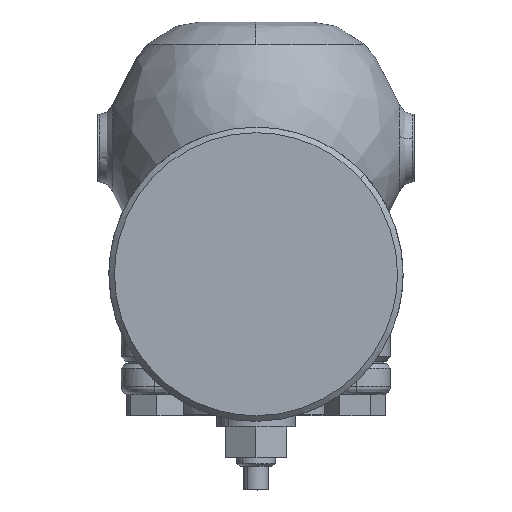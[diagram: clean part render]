
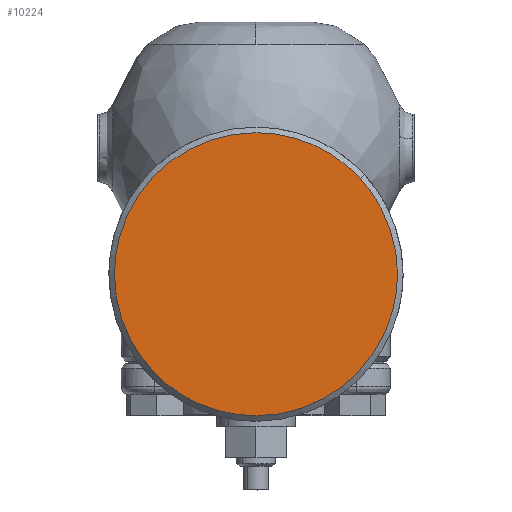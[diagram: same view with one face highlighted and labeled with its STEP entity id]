
A CAD part, left-side view. The second image highlights one B-rep face of the part: STEP entity #10224.
In plain terms, the highlighted free-form (B-spline) face has degree [1, 1] with [2, 2] control points.
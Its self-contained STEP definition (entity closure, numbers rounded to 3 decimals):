
#1703=CARTESIAN_POINT('',(472.5,-50.5,-365.29));
#1704=VERTEX_POINT('',#1703);
#1705=CARTESIAN_POINT('',(472.5,-37.233,-331.172));
#1706=VERTEX_POINT('',#1705);
#1707=CARTESIAN_POINT('',(472.5,-50.5,-365.29));
#1708=CARTESIAN_POINT('',(472.5,-50.5,-362.071));
#1709=CARTESIAN_POINT('',(472.5,-50.069,-357.583));
#1710=CARTESIAN_POINT('',(472.5,-48.585,-351.214));
#1711=CARTESIAN_POINT('',(472.5,-46.574,-345.291));
#1712=CARTESIAN_POINT('',(472.5,-42.9,-338.151));
#1713=CARTESIAN_POINT('',(472.5,-39.276,-333.402));
#1714=CARTESIAN_POINT('',(472.5,-37.233,-331.172));
#1715=B_SPLINE_CURVE_WITH_KNOTS('',3,(#1707,#1708,#1709,#1710,#1711,#1712,#1713,#1714),.UNSPECIFIED.,.F.,.U.,(4,1,1,1,1,4),(0.,9.657,13.462,19.608,28.387,37.459),.UNSPECIFIED.);
#1716=EDGE_CURVE('',#1704,#1706,#1715,.T.);
#1718=CARTESIAN_POINT('',(472.5,0.,-415.79));
#1719=VERTEX_POINT('',#1718);
#1720=CARTESIAN_POINT('',(472.5,0.,-415.79));
#1721=CARTESIAN_POINT('',(472.5,-3.615,-415.79));
#1722=CARTESIAN_POINT('',(472.5,-9.915,-415.11));
#1723=CARTESIAN_POINT('',(472.5,-18.939,-412.373));
#1724=CARTESIAN_POINT('',(472.5,-26.629,-408.502));
#1725=CARTESIAN_POINT('',(472.5,-33.024,-403.728));
#1726=CARTESIAN_POINT('',(472.5,-38.439,-398.314));
#1727=CARTESIAN_POINT('',(472.5,-42.344,-393.081));
#1728=CARTESIAN_POINT('',(472.5,-45.722,-387.032));
#1729=CARTESIAN_POINT('',(472.5,-48.143,-381.084));
#1730=CARTESIAN_POINT('',(472.5,-50.03,-373.553));
#1731=CARTESIAN_POINT('',(472.5,-50.5,-368.285));
#1732=CARTESIAN_POINT('',(472.5,-50.5,-365.29));
#1733=B_SPLINE_CURVE_WITH_KNOTS('',3,(#1720,#1721,#1722,#1723,#1724,#1725,#1726,#1727,#1728,#1729,#1730,#1731,#1732),.UNSPECIFIED.,.F.,.U.,(4,1,1,1,1,1,1,1,1,1,4),(0.,10.845,18.902,28.198,36.564,42.761,51.128,56.085,63.522,70.339,79.325),.UNSPECIFIED.);
#1734=EDGE_CURVE('',#1719,#1704,#1733,.T.);
#1736=CARTESIAN_POINT('',(472.5,37.233,-399.407));
#1737=VERTEX_POINT('',#1736);
#1738=CARTESIAN_POINT('',(472.5,37.233,-399.407));
#1739=CARTESIAN_POINT('',(472.5,35.391,-401.417));
#1740=CARTESIAN_POINT('',(472.5,31.943,-404.616));
#1741=CARTESIAN_POINT('',(472.5,25.851,-408.863));
#1742=CARTESIAN_POINT('',(472.5,19.608,-412.031));
#1743=CARTESIAN_POINT('',(472.5,13.49,-414.063));
#1744=CARTESIAN_POINT('',(472.5,7.087,-415.431));
#1745=CARTESIAN_POINT('',(472.5,2.835,-415.79));
#1746=CARTESIAN_POINT('',(472.5,0.,-415.79));
#1747=B_SPLINE_CURVE_WITH_KNOTS('',3,(#1738,#1739,#1740,#1741,#1742,#1743,#1744,#1745,#1746),.UNSPECIFIED.,.F.,.U.,(4,1,1,1,1,1,4),(0.,8.177,14.064,22.241,29.11,33.362,41.866),.UNSPECIFIED.);
#1748=EDGE_CURVE('',#1737,#1719,#1747,.T.);
#1842=CARTESIAN_POINT('',(472.5,0.,-314.79));
#1843=VERTEX_POINT('',#1842);
#1844=CARTESIAN_POINT('',(472.5,-37.233,-331.172));
#1845=CARTESIAN_POINT('',(472.5,-35.391,-329.163));
#1846=CARTESIAN_POINT('',(472.5,-31.462,-325.517));
#1847=CARTESIAN_POINT('',(472.5,-25.372,-321.444));
#1848=CARTESIAN_POINT('',(472.5,-19.874,-318.766));
#1849=CARTESIAN_POINT('',(472.5,-13.927,-316.596));
#1850=CARTESIAN_POINT('',(472.5,-7.414,-315.139));
#1851=CARTESIAN_POINT('',(472.5,-2.29,-314.79));
#1852=CARTESIAN_POINT('',(472.5,0.,-314.79));
#1853=B_SPLINE_CURVE_WITH_KNOTS('',3,(#1844,#1845,#1846,#1847,#1848,#1849,#1850,#1851,#1852),.UNSPECIFIED.,.F.,.U.,(4,1,1,1,1,1,4),(0.,8.177,16.027,21.914,26.493,34.997,41.866),.UNSPECIFIED.);
#1854=EDGE_CURVE('',#1706,#1843,#1853,.T.);
#1909=CARTESIAN_POINT('',(472.5,50.5,-365.29));
#1910=VERTEX_POINT('',#1909);
#1911=CARTESIAN_POINT('',(472.5,50.5,-365.29));
#1912=CARTESIAN_POINT('',(472.5,50.5,-368.314));
#1913=CARTESIAN_POINT('',(472.5,50.052,-373.289));
#1914=CARTESIAN_POINT('',(472.5,48.304,-380.506));
#1915=CARTESIAN_POINT('',(472.5,46.052,-386.347));
#1916=CARTESIAN_POINT('',(472.5,42.475,-392.965));
#1917=CARTESIAN_POINT('',(472.5,39.408,-397.034));
#1918=CARTESIAN_POINT('',(472.5,37.233,-399.407));
#1919=B_SPLINE_CURVE_WITH_KNOTS('',3,(#1911,#1912,#1913,#1914,#1915,#1916,#1917,#1918),.UNSPECIFIED.,.F.,.U.,(4,1,1,1,1,4),(0.,9.072,14.925,22.241,27.802,37.459),.UNSPECIFIED.);
#1920=EDGE_CURVE('',#1910,#1737,#1919,.T.);
#1922=CARTESIAN_POINT('',(472.5,0.,-314.79));
#1923=CARTESIAN_POINT('',(472.5,3.615,-314.789));
#1924=CARTESIAN_POINT('',(472.5,8.779,-315.347));
#1925=CARTESIAN_POINT('',(472.5,16.172,-317.32));
#1926=CARTESIAN_POINT('',(472.5,22.038,-319.665));
#1927=CARTESIAN_POINT('',(472.5,28.77,-323.534));
#1928=CARTESIAN_POINT('',(472.5,34.746,-328.347));
#1929=CARTESIAN_POINT('',(472.5,40.152,-334.348));
#1930=CARTESIAN_POINT('',(472.5,44.087,-340.317));
#1931=CARTESIAN_POINT('',(472.5,46.742,-345.93));
#1932=CARTESIAN_POINT('',(472.5,48.488,-350.905));
#1933=CARTESIAN_POINT('',(472.5,50.027,-357.13));
#1934=CARTESIAN_POINT('',(472.5,50.5,-362.088));
#1935=CARTESIAN_POINT('',(472.5,50.5,-365.29));
#1936=B_SPLINE_CURVE_WITH_KNOTS('',3,(#1922,#1923,#1924,#1925,#1926,#1927,#1928,#1929,#1930,#1931,#1932,#1933,#1934,#1935),.UNSPECIFIED.,.F.,.U.,(4,1,1,1,1,1,1,1,1,1,1,4),(0.,10.845,15.493,22.93,29.747,38.733,45.86,53.916,60.114,64.452,69.72,79.325),.UNSPECIFIED.);
#1937=EDGE_CURVE('',#1843,#1910,#1936,.T.);
#10211=CARTESIAN_POINT('',(472.5,-55.545,-309.745));
#10212=CARTESIAN_POINT('',(472.5,-55.545,-420.835));
#10213=CARTESIAN_POINT('',(472.5,55.545,-309.745));
#10214=CARTESIAN_POINT('',(472.5,55.545,-420.835));
#10215=B_SPLINE_SURFACE_WITH_KNOTS('',1,1,((#10211,#10213),(#10212,#10214)),.UNSPECIFIED.,.F.,.F.,.U.,(2,2),(2,2),(0.,111.09),(0.,111.09),.UNSPECIFIED.);
#10216=ORIENTED_EDGE('',*,*,#1937,.T.);
#10217=ORIENTED_EDGE('',*,*,#1920,.T.);
#10218=ORIENTED_EDGE('',*,*,#1748,.T.);
#10219=ORIENTED_EDGE('',*,*,#1734,.T.);
#10220=ORIENTED_EDGE('',*,*,#1716,.T.);
#10221=ORIENTED_EDGE('',*,*,#1854,.T.);
#10222=EDGE_LOOP('',(#10216,#10217,#10218,#10219,#10220,#10221));
#10223=FACE_OUTER_BOUND('',#10222,.T.);
#10224=ADVANCED_FACE('',(#10223),#10215,.F.);
